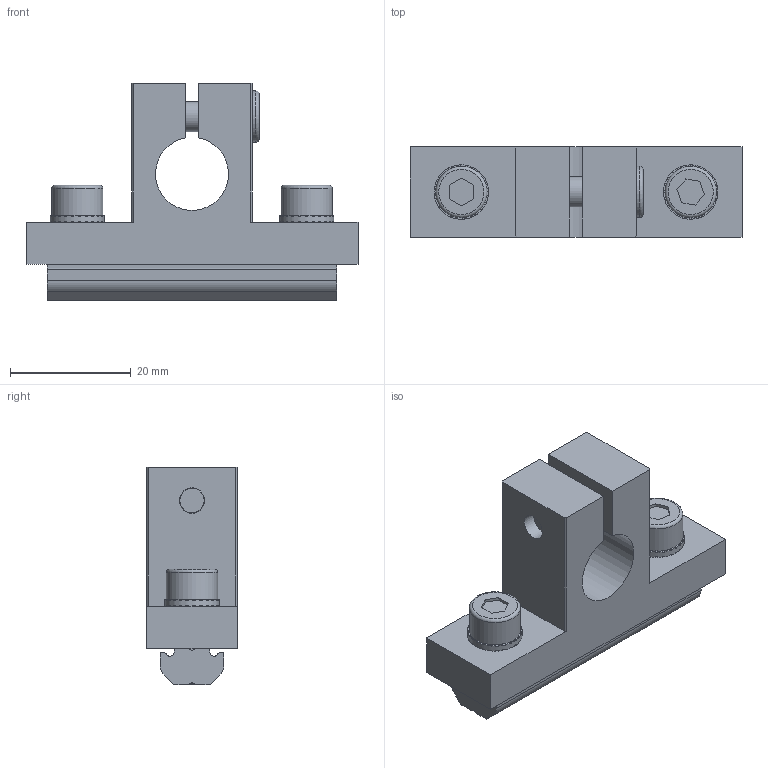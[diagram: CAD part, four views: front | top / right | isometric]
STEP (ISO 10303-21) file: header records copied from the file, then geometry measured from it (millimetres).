
FILE_DESCRIPTION(('STEP AP214'),'1');
FILE_NAME('CA.03.07.001.X.stp','2018-06-06T11:38:19',(' '),(' '),'Spatial InterOp 3D',' ',' ');
FILE_SCHEMA(('AUTOMOTIVE_DESIGN { 1 0 10303 214 1 1 1 1 }'));
Length unit declared in the file: millimetre
Products named in the file (5): CA.03.07.001.X; V.TCE5x14; R.5.SCH; GWP.5.38; 03.07.001
Assembly tree (8 placements, depth 2):
  CA.03.07.001.X
    V.TCE5x14  x3
    R.5.SCH  x3
    GWP.5.38
    03.07.001
Bounding box: 55 x 15 x 36 mm (x, y, z)
Volume: 13714.5 mm3; surface area: 8716.3 mm2
Topology: 5 solids, 8 shells, 678 faces, 1982 edges, 1314 vertices
Faces by surface type: plane 637, cylinder 32, torus 6, cone 3
Full cylindrical faces by diameter (mm): 4.2 x3, 5 x3, 5.2 x1, 5.3 x3, 6 x2, 8.5 x3, 9 x3, 10 x1
Entity records: 10837 total; most frequent: CARTESIAN_POINT 1580, DIRECTION 1505, ORIENTED_EDGE 1480, EDGE_CURVE 740, AXIS2_PLACEMENT_3D 504, VERTEX_POINT 499, LINE 497, VECTOR 497
